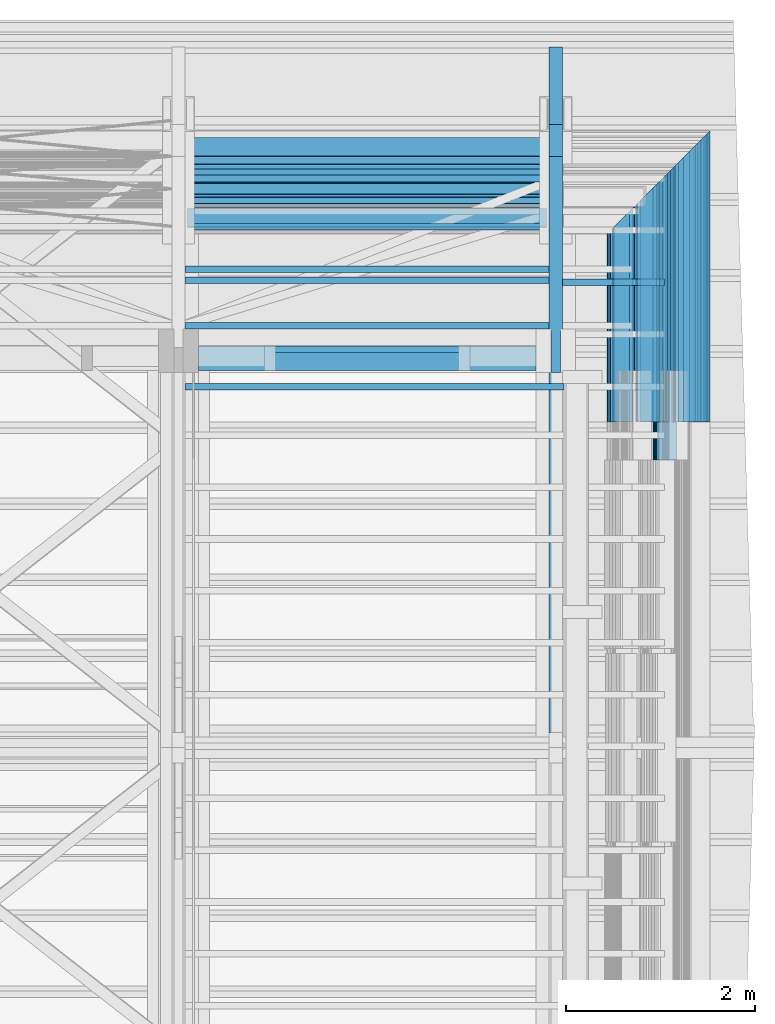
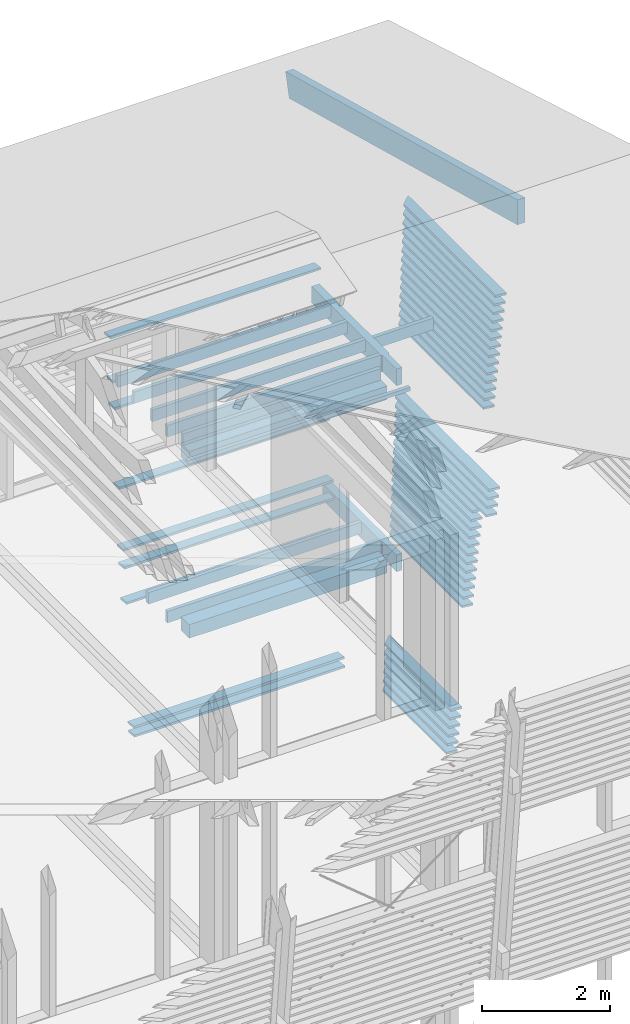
# One storey, part 27 of 48: 59 beams.
"""IFC2X3 building model written with IfcOpenShell, lengths in metres."""

from ifc_helpers import new_model, si_unit, direction, frame, origin_with_axes, place, context, subcontext, project, spatial, faceted_brep, material, element, save


model = new_model("IFC2X3")

# Units and contexts
model_context = context("Model", 3, precision=1e-06, world=origin_with_axes(), true_north=direction((0.0, 1.0, 0.0)))
body_context = subcontext(model_context, "Body", "Model", "MODEL_VIEW")
ifc_project = project(units=[si_unit("LENGTHUNIT", "METRE"), si_unit("AREAUNIT", "SQUARE_METRE"), si_unit("VOLUMEUNIT", "CUBIC_METRE"), si_unit("PLANEANGLEUNIT", "RADIAN")], contexts=[model_context])

# Site, building, storey
site_placement = place(None, origin_with_axes())
site = spatial("IfcSite", under=ifc_project, at=site_placement, CompositionType="ELEMENT")
building_placement = place(site_placement, origin_with_axes())
building = spatial("IfcBuilding", under=site, at=building_placement, Name="Building 1", CompositionType="ELEMENT")
storey_placement = place(building_placement, origin_with_axes())
storey = spatial("IfcBuildingStorey", under=building, at=storey_placement, Name="Storey 1", CompositionType="ELEMENT", Elevation=0.0)

# Beams
ifc_material_1 = material(Name="Moabi")
beam_1_placement = place(storey_placement, frame((69.3927439, -183.2718966, 4.2138798), z_axis=(0.0, -0.9945219, 0.1045285), x_axis=(-1.0, 0.0, 0.0)))
element("IfcBeam", 1, at=beam_1_placement, inside=storey, material=ifc_material_1, Name="garde corp", context=body_context, shape_type="Brep", body=[
    faceted_brep([(3.8048051, -0.02, 0.1), (3.8048051, 0.02, 0.1), (0.0, 0.02, 0.1), (0.0, -0.02, 0.1), (3.8048051, 0.02, -0.1), (0.0, 0.02, -0.1), (3.8048051, -0.02, -0.1), (0.0, -0.02, -0.1)], [[[0, 1, 2, 3]], [[1, 4, 5, 2]], [[4, 6, 7, 5]], [[6, 0, 3, 7]], [[1, 0, 6, 4]], [[7, 3, 2, 5]]]),
])
ifc_material_2 = material(Name="GL28h")
beam_2_placement = place(storey_placement, frame((69.4897437, -181.8355309, 11.197686), z_axis=(0.0, 0.258819, 0.9659258), x_axis=(0.0, -0.9659258, 0.258819)))
element("IfcBeam", 2, at=beam_2_placement, inside=storey, material=ifc_material_2, Name="Arbalétrier", context=body_context, shape_type="Brep", body=[
    faceted_brep([(7.4053414, 0.07, -0.23), (7.5285981, 0.07, 0.23), (7.5285981, -0.07, 0.23), (7.4053414, -0.07, -0.23), (0.0, 0.07, 0.23), (0.0, -0.07, 0.23), (0.0, 0.07, -0.23), (0.0, -0.07, -0.23)], [[[0, 1, 2, 3]], [[2, 1, 4, 5]], [[1, 0, 6, 4]], [[0, 3, 7, 6]], [[3, 2, 5, 7]], [[6, 7, 5, 4]]]),
])
beam_3_placement = place(storey_placement, frame((70.6058754, -183.0867311, 5.0096516), z_axis=(-0.9945219, 0.0, 0.1045285), x_axis=(0.0, -1.0, 0.0)))
element("IfcBeam", 3, at=beam_3_placement, inside=storey, material=ifc_material_1, Name="garde corp", context=body_context, shape_type="Brep", body=[
    faceted_brep([(0.0, 0.02, -0.1), (0.0041811, -0.02, -0.1), (0.2030855, -0.02, 0.1), (0.1989044, 0.02, 0.1), (2.6655478, -0.02, -0.1), (2.6655478, -0.02, 0.1), (2.6655478, 0.02, -0.1), (2.6655478, 0.02, 0.1)], [[[0, 1, 2, 3]], [[2, 1, 4, 5]], [[1, 0, 6, 4]], [[3, 2, 5, 7]], [[0, 3, 7, 6]], [[4, 6, 7, 5]]]),
])
beam_4_placement = place(storey_placement, frame((65.6997437, -185.0764881, 4.085), z_axis=(0.0, 0.0, 1.0), x_axis=(1.0, 0.0, 0.0)))
element("IfcBeam", 4, at=beam_4_placement, inside=storey, material=ifc_material_2, Name="Buton", context=body_context, shape_type="Brep", body=[
    faceted_brep([(0.0, 0.13, 0.13), (0.0, -0.13, 0.13), (3.58, -0.13, 0.13), (3.58, 0.13, 0.13), (0.0, -0.13, -0.13), (3.58, -0.13, -0.13), (0.0, 0.13, -0.13), (3.58, 0.13, -0.13)], [[[0, 1, 2, 3]], [[2, 1, 4, 5]], [[1, 0, 6, 4]], [[5, 4, 6, 7]], [[0, 3, 7, 6]], [[3, 2, 5, 7]]]),
])
beam_5_placement = place(storey_placement, frame((71.0072647, -182.6853418, 8.8286157), z_axis=(-0.9945219, 0.0, 0.1045285), x_axis=(0.0, -1.0, 0.0)))
element("IfcBeam", 5, at=beam_5_placement, inside=storey, material=ifc_material_1, Name="garde corp", context=body_context, shape_type="Brep", body=[
    faceted_brep([(0.0, 0.02, -0.1), (0.0041811, -0.02, -0.1), (0.2030855, -0.02, 0.1), (0.1989044, 0.02, 0.1), (3.0669371, -0.02, -0.1), (3.0669371, -0.02, 0.1), (3.0669371, 0.02, -0.1), (3.0669371, 0.02, 0.1)], [[[0, 1, 2, 3]], [[2, 1, 4, 5]], [[1, 0, 6, 4]], [[3, 2, 5, 7]], [[0, 3, 7, 6]], [[4, 6, 7, 5]]]),
])
beam_6_placement = place(storey_placement, frame((69.3927439, -183.1213756, 5.6459913), z_axis=(0.0, -0.9945219, 0.1045285), x_axis=(-1.0, 0.0, 0.0)))
element("IfcBeam", 6, at=beam_6_placement, inside=storey, material=ifc_material_1, Name="garde corp", context=body_context, shape_type="Brep", body=[
    faceted_brep([(3.8048053, -0.02, 0.1), (3.8048053, 0.02, 0.1), (0.0, 0.02, 0.1), (0.0, -0.02, 0.1), (3.8048051, 0.02, -0.1), (0.0, 0.02, -0.1), (3.8048053, -0.02, -0.1), (0.0, -0.02, -0.1)], [[[0, 1, 2, 3]], [[1, 4, 5, 2]], [[4, 6, 7, 5]], [[6, 0, 3, 7]], [[1, 0, 6, 4]], [[7, 3, 2, 5]]]),
])
beam_7_placement = place(storey_placement, frame((65.6997437, -185.0764881, 7.4), z_axis=(0.0, 0.0, 1.0), x_axis=(1.0, 0.0, 0.0)))
element("IfcBeam", 7, at=beam_7_placement, inside=storey, material=ifc_material_2, Name="Buton", context=body_context, shape_type="Brep", body=[
    faceted_brep([(0.0, 0.13, 0.13), (0.0, -0.13, 0.13), (3.58, -0.13, 0.13), (3.58, 0.13, 0.13), (0.0, -0.13, -0.13), (3.58, -0.13, -0.13), (0.0, 0.13, -0.13), (3.58, 0.13, -0.13)], [[[0, 1, 2, 3]], [[2, 1, 4, 5]], [[1, 0, 6, 4]], [[5, 4, 6, 7]], [[0, 3, 7, 6]], [[3, 2, 5, 7]]]),
])
beam_8_placement = place(storey_placement, frame((69.4897437, -185.2264881, 7.649), z_axis=(0.0, 0.0, 1.0), x_axis=(0.0, 1.0, 0.0)))
element("IfcBeam", 8, at=beam_8_placement, inside=storey, material=ifc_material_2, Name="Sommier Coursive", context=body_context, shape_type="Brep", body=[
    faceted_brep([(0.0, -0.05, -0.16), (0.44, -0.05, -0.16), (0.44, -0.05, 0.16), (0.0, -0.05, 0.16), (0.44, -0.07, -0.16), (0.44, -0.07, 0.16), (0.0, 0.05, 0.16), (0.0, 0.05, -0.16), (2.6285375, -0.07, 0.16), (2.6285375, 0.07, 0.16), (0.44, 0.07, 0.16), (0.44, 0.05, 0.16), (0.44, 0.05, -0.16), (0.44, 0.07, -0.16), (2.6285375, -0.07, -0.16), (2.6285375, 0.07, -0.16)], [[[0, 1, 2, 3]], [[1, 4, 5, 2]], [[0, 3, 6, 7]], [[3, 2, 5, 8, 9, 10, 11, 6]], [[6, 11, 12, 7]], [[11, 10, 13, 12]], [[5, 4, 14, 8]], [[1, 0, 7, 12, 13, 15, 14, 4]], [[13, 10, 9, 15]], [[9, 8, 14, 15]]]),
])
beam_9_placement = place(storey_placement, frame((65.6997437, -184.9814881, 7.64), z_axis=(0.0, 0.0, 1.0), x_axis=(1.0, 0.0, 0.0)))
element("IfcBeam", 9, at=beam_9_placement, inside=storey, material=ifc_material_2, Name="Rive", context=body_context, shape_type="Brep", body=[
    faceted_brep([(0.0, -0.035, -0.11), (0.0, -0.035, 0.11), (0.0, 0.035, 0.11), (0.0, 0.035, -0.11), (3.58, 0.035, -0.11), (3.58, -0.035, -0.11), (3.58, -0.035, 0.11), (3.58, 0.035, 0.11)], [[[0, 1, 2, 3]], [[0, 3, 4, 5]], [[1, 0, 5, 6]], [[5, 4, 7, 6]], [[3, 2, 7, 4]], [[2, 1, 6, 7]]]),
])
for number, where, z_axis, x_axis, name in (
    (10, (69.3927441, -183.5729386, 1.3496567), (0.0, -0.9945219, 0.1045285), (-1.0, 0.0, 0.0), "garde corp"),
    (11, (69.3927441, -183.5896631, 1.1905332), (0.0, -0.9945219, 0.1045285), (-1.0, 0.0, 0.0), "garde corp"),
):
    element("IfcBeam", number, at=place(storey_placement, frame(where, z_axis=z_axis, x_axis=x_axis)), inside=storey, material=ifc_material_1, Name=name, context=body_context, shape_type="Brep", body=[
        faceted_brep([(3.806, -0.02, 0.1), (3.806, 0.02, 0.1), (0.0, 0.02, 0.1), (0.0, -0.02, 0.1), (3.806, 0.02, -0.1), (0.0, 0.02, -0.1), (3.806, -0.02, -0.1), (0.0, -0.02, -0.1)], [[[0, 1, 2, 3]], [[1, 4, 5, 2]], [[4, 6, 7, 5]], [[6, 0, 3, 7]], [[1, 0, 6, 4]], [[7, 3, 2, 5]]]),
    ])
beam_10_placement = place(storey_placement, frame((69.4897437, -185.2264881, 4.089), z_axis=(0.0, 0.0, 1.0), x_axis=(0.0, 1.0, 0.0)))
element("IfcBeam", 12, at=beam_10_placement, inside=storey, material=ifc_material_2, Name="Sommier Coursive", context=body_context, shape_type="Brep", body=[
    faceted_brep([(0.0, 0.05, 0.16), (0.44, 0.05, 0.16), (0.44, 0.05, -0.16), (0.0, 0.05, -0.16), (0.44, 0.07, 0.16), (0.44, 0.07, -0.16), (0.0, -0.05, 0.16), (0.44, -0.05, 0.16), (0.44, -0.07, 0.16), (2.2900003, -0.07, 0.16), (2.2900003, 0.07, 0.16), (0.0, -0.05, -0.16), (0.44, -0.05, -0.16), (0.44, -0.07, -0.16), (2.2900003, 0.07, -0.16), (2.2900003, -0.07, -0.16)], [[[0, 1, 2, 3]], [[1, 4, 5, 2]], [[4, 1, 0, 6, 7, 8, 9, 10]], [[0, 3, 11, 6]], [[11, 12, 7, 6]], [[12, 13, 8, 7]], [[2, 5, 14, 15, 13, 12, 11, 3]], [[8, 13, 15, 9]], [[5, 4, 10, 14]], [[10, 9, 15, 14]]]),
])
beam_11_placement = place(storey_placement, frame((70.5557017, -183.1369048, 4.5322811), z_axis=(-0.9945219, 0.0, 0.1045285), x_axis=(0.0, -1.0, 0.0)))
element("IfcBeam", 13, at=beam_11_placement, inside=storey, material=ifc_material_1, Name="garde corp", context=body_context, shape_type="Brep", body=[
    faceted_brep([(0.0, 0.02, -0.1), (0.0041811, -0.02, -0.1), (0.2030855, -0.02, 0.1), (0.1989044, 0.02, 0.1), (2.6153742, -0.02, -0.1), (2.6153742, -0.02, 0.1), (2.6153742, 0.02, -0.1), (2.6153742, 0.02, 0.1)], [[[0, 1, 2, 3]], [[2, 1, 4, 5]], [[1, 0, 6, 4]], [[3, 2, 5, 7]], [[0, 3, 7, 6]], [[4, 6, 7, 5]]]),
])
beam_12_placement = place(storey_placement, frame((70.9738156, -182.7187909, 8.5103687), z_axis=(-0.9945219, 0.0, 0.1045285), x_axis=(0.0, -1.0, 0.0)))
element("IfcBeam", 14, at=beam_12_placement, inside=storey, material=ifc_material_1, Name="garde corp", context=body_context, shape_type="Brep", body=[
    faceted_brep([(0.0, 0.02, -0.1), (0.0041811, -0.02, -0.1), (0.2030855, -0.02, 0.1), (0.1989044, 0.02, 0.1), (3.033488, -0.02, -0.1), (3.033488, -0.02, 0.1), (3.033488, 0.02, -0.1), (3.033488, 0.02, 0.1)], [[[0, 1, 2, 3]], [[2, 1, 4, 5]], [[1, 0, 6, 4]], [[3, 2, 5, 7]], [[0, 3, 7, 6]], [[4, 6, 7, 5]]]),
])
beam_13_placement = place(storey_placement, frame((70.9403665, -182.7575802, 8.1921217), z_axis=(-0.9945219, 0.0, 0.1045285), x_axis=(0.0, -1.0, 0.0)))
element("IfcBeam", 15, at=beam_13_placement, inside=storey, material=ifc_material_1, Name="garde corp", context=body_context, shape_type="Brep", body=[
    faceted_brep([(0.0, -0.02, -0.0988346), (0.1977453, -0.02, 0.1), (0.1935642, 0.02, 0.1), (0.0, 0.02, -0.0946304), (2.9946987, -0.02, 0.1), (2.9946987, 0.02, 0.1), (0.0, -0.02, -0.1), (2.9946987, -0.02, -0.1), (2.9946987, 0.02, -0.1), (0.0, 0.02, -0.1)], [[[0, 1, 2, 3]], [[2, 1, 4, 5]], [[1, 0, 6, 7, 4]], [[8, 7, 6, 9]], [[3, 2, 5, 8, 9]], [[7, 8, 5, 4]], [[0, 3, 9, 6]]]),
])
beam_14_placement = place(storey_placement, frame((70.472079, -183.2214821, 3.7366636), z_axis=(-0.9945219, 0.0, 0.1045285), x_axis=(0.0, -1.0, 0.0)))
element("IfcBeam", 16, at=beam_14_placement, inside=storey, material=ifc_material_1, Name="garde corp", context=body_context, shape_type="Brep", body=[
    faceted_brep([(0.0, 0.0108679, -0.1), (0.0032266, -0.02, -0.1), (0.2021309, -0.02, 0.1), (0.1979498, 0.02, 0.1), (0.0, 0.02, -0.0990402), (2.5307968, -0.02, 0.1), (2.5307968, 0.02, 0.1), (2.5307968, -0.02, -0.1), (0.0, 0.02, -0.1), (2.5307968, 0.02, -0.1)], [[[0, 1, 2, 3, 4]], [[3, 2, 5, 6]], [[2, 1, 7, 5]], [[1, 0, 8, 9, 7]], [[4, 3, 6, 9, 8]], [[7, 9, 6, 5]], [[0, 4, 8]]]),
])
beam_15_placement = place(storey_placement, frame((70.1877615, -183.5049766, 1.031564), z_axis=(-0.9945219, 0.0, 0.1045285), x_axis=(0.0, -1.0, 0.0)))
element("IfcBeam", 17, at=beam_15_placement, inside=storey, material=ifc_material_1, Name="garde corp", context=body_context, shape_type="Brep", body=[
    faceted_brep([(0.0, 0.018741, -0.1), (0.0040495, -0.02, -0.1), (0.2029539, -0.02, 0.1), (0.1987728, 0.02, 0.1), (0.0, 0.02, -0.0998677), (2.2473024, -0.02, 0.1), (2.2473024, 0.02, 0.1), (2.2473024, -0.02, -0.1), (0.0, 0.02, -0.1), (2.2473024, 0.02, -0.1)], [[[0, 1, 2, 3, 4]], [[3, 2, 5, 6]], [[2, 1, 7, 5]], [[1, 0, 8, 9, 7]], [[4, 3, 6, 9, 8]], [[7, 9, 6, 5]], [[0, 4, 8]]]),
])
beam_16_placement = place(storey_placement, frame((70.4553544, -183.2372521, 3.5775401), z_axis=(-0.9945219, 0.0, 0.1045285), x_axis=(0.0, -1.0, 0.0)))
element("IfcBeam", 18, at=beam_16_placement, inside=storey, material=ifc_material_1, Name="garde corp", context=body_context, shape_type="Brep", body=[
    faceted_brep([(0.0, 0.02, -0.1), (0.0041811, -0.02, -0.1), (0.2030855, -0.02, 0.1), (0.1989044, 0.02, 0.1), (2.5150269, -0.02, -0.1), (2.5150269, -0.02, 0.1), (2.5150269, 0.02, -0.1), (2.5150269, 0.02, 0.1)], [[[0, 1, 2, 3]], [[2, 1, 4, 5]], [[1, 0, 6, 4]], [[3, 2, 5, 7]], [[0, 3, 7, 6]], [[4, 6, 7, 5]]]),
])
beam_17_placement = place(storey_placement, frame((70.4888035, -183.203803, 3.8957871), z_axis=(-0.9945219, 0.0, 0.1045285), x_axis=(0.0, -1.0, 0.0)))
element("IfcBeam", 19, at=beam_17_placement, inside=storey, material=ifc_material_1, Name="garde corp", context=body_context, shape_type="Brep", body=[
    faceted_brep([(0.0, 0.02, -0.1), (0.0041811, -0.02, -0.1), (0.2030855, -0.02, 0.1), (0.1989044, 0.02, 0.1), (2.548476, -0.02, -0.1), (2.548476, -0.02, 0.1), (2.548476, 0.02, -0.1), (2.548476, 0.02, 0.1)], [[[0, 1, 2, 3]], [[2, 1, 4, 5]], [[1, 0, 6, 4]], [[3, 2, 5, 7]], [[0, 3, 7, 6]], [[4, 6, 7, 5]]]),
])
beam_18_placement = place(storey_placement, frame((70.171037, -183.5215857, 0.8724405), z_axis=(-0.9945219, 0.0, 0.1045285), x_axis=(0.0, -1.0, 0.0)))
element("IfcBeam", 20, at=beam_18_placement, inside=storey, material=ifc_material_1, Name="garde corp", context=body_context, shape_type="Brep", body=[
    faceted_brep([(0.0, 0.0198904, -0.1), (0.0041811, -0.02, -0.1), (0.2030855, -0.02, 0.1), (0.1988929, 0.02, 0.1), (0.0, 0.02, -0.1), (2.2306933, -0.02, 0.1), (2.2306933, 0.02, 0.1), (2.2306933, -0.02, -0.1), (2.2306933, 0.02, -0.1)], [[[0, 1, 2, 3, 4]], [[3, 2, 5, 6]], [[2, 1, 7, 5]], [[1, 0, 4, 8, 7]], [[4, 3, 6, 8, 4]], [[7, 8, 6, 5]]]),
])
beam_19_placement = place(storey_placement, frame((70.4219053, -183.271314, 3.2592931), z_axis=(-0.9945219, 0.0, 0.1045285), x_axis=(0.0, -1.0, 0.0)))
element("IfcBeam", 21, at=beam_19_placement, inside=storey, material=ifc_material_1, Name="garde corp", context=body_context, shape_type="Brep", body=[
    faceted_brep([(0.0, 0.0141377, -0.1), (0.0035684, -0.02, -0.1), (0.2024727, -0.02, 0.1), (0.1982916, 0.02, 0.1), (0.0, 0.02, -0.0993838), (2.480965, -0.02, 0.1), (2.480965, 0.02, 0.1), (2.480965, -0.02, -0.1), (0.0, 0.02, -0.1), (2.480965, 0.02, -0.1)], [[[0, 1, 2, 3, 4]], [[3, 2, 5, 6]], [[2, 1, 7, 5]], [[1, 0, 8, 9, 7]], [[4, 3, 6, 9, 8]], [[7, 9, 6, 5]], [[0, 4, 8]]]),
])
beam_20_placement = place(storey_placement, frame((70.5055281, -183.1870784, 4.0549106), z_axis=(-0.9945219, 0.0, 0.1045285), x_axis=(0.0, -1.0, 0.0)))
element("IfcBeam", 22, at=beam_20_placement, inside=storey, material=ifc_material_1, Name="garde corp", context=body_context, shape_type="Brep", body=[
    faceted_brep([(0.0, 0.02, -0.1), (0.0041811, -0.02, -0.1), (0.2030855, -0.02, 0.1), (0.1989044, 0.02, 0.1), (2.5652005, -0.02, -0.1), (2.5652005, -0.02, 0.1), (2.5652005, 0.02, -0.1), (2.5652005, 0.02, 0.1)], [[[0, 1, 2, 3]], [[2, 1, 4, 5]], [[1, 0, 6, 4]], [[3, 2, 5, 7]], [[0, 3, 7, 6]], [[4, 6, 7, 5]]]),
])
beam_21_placement = place(storey_placement, frame((70.1375879, -183.5553004, 0.5541935), z_axis=(-0.9945219, 0.0, 0.1045285), x_axis=(0.0, -1.0, 0.0)))
element("IfcBeam", 23, at=beam_21_placement, inside=storey, material=ifc_material_1, Name="garde corp", context=body_context, shape_type="Brep", body=[
    faceted_brep([(0.0, 0.0173037, -0.1), (0.0038993, -0.02, -0.1), (0.2028037, -0.02, 0.1), (0.1986225, 0.02, 0.1), (0.0, 0.02, -0.0997166), (2.1969785, -0.02, 0.1), (2.1969785, 0.02, 0.1), (2.1969785, -0.02, -0.1), (0.0, 0.02, -0.1), (2.1969785, 0.02, -0.1)], [[[0, 1, 2, 3, 4]], [[3, 2, 5, 6]], [[2, 1, 7, 5]], [[1, 0, 8, 9, 7]], [[4, 3, 6, 9, 8]], [[7, 9, 6, 5]], [[0, 4, 8]]]),
])
beam_22_placement = place(storey_placement, frame((70.1543124, -183.5382941, 0.713317), z_axis=(-0.9945219, 0.0, 0.1045285), x_axis=(0.0, -1.0, 0.0)))
element("IfcBeam", 24, at=beam_22_placement, inside=storey, material=ifc_material_1, Name="garde corp", context=body_context, shape_type="Brep", body=[
    faceted_brep([(0.0, 0.02, -0.1), (0.0041811, -0.02, -0.1), (0.2030855, -0.02, 0.1), (0.1989044, 0.02, 0.1), (2.2139849, -0.02, -0.1), (2.2139849, -0.02, 0.1), (2.2139849, 0.02, -0.1), (2.2139849, 0.02, 0.1)], [[[0, 1, 2, 3]], [[2, 1, 4, 5]], [[1, 0, 6, 4]], [[3, 2, 5, 7]], [[0, 3, 7, 6]], [[4, 6, 7, 5]]]),
])
beam_23_placement = place(storey_placement, frame((70.2212107, -183.4713958, 1.349811), z_axis=(-0.9945219, 0.0, 0.1045285), x_axis=(0.0, -1.0, 0.0)))
element("IfcBeam", 25, at=beam_23_placement, inside=storey, material=ifc_material_1, Name="garde corp", context=body_context, shape_type="Brep", body=[
    faceted_brep([(0.0, 0.02, -0.1), (0.0041811, -0.02, -0.1), (0.2030855, -0.02, 0.1), (0.1989044, 0.02, 0.1), (2.2808831, -0.02, -0.1), (2.2808831, -0.02, 0.1), (2.2808831, 0.02, -0.1), (2.2808831, 0.02, 0.1)], [[[0, 1, 2, 3]], [[2, 1, 4, 5]], [[1, 0, 6, 4]], [[3, 2, 5, 7]], [[0, 3, 7, 6]], [[4, 6, 7, 5]]]),
])
beam_24_placement = place(storey_placement, frame((70.4386299, -183.254808, 3.4184166), z_axis=(-0.9945219, 0.0, 0.1045285), x_axis=(0.0, -1.0, 0.0)))
element("IfcBeam", 26, at=beam_24_placement, inside=storey, material=ifc_material_1, Name="garde corp", context=body_context, shape_type="Brep", body=[
    faceted_brep([(0.0, 0.0120465, -0.1), (0.0033498, -0.02, -0.1), (0.2022542, -0.02, 0.1), (0.198073, 0.02, 0.1), (0.0, 0.02, -0.0991641), (2.4974709, -0.02, 0.1), (2.4974709, 0.02, 0.1), (2.4974709, -0.02, -0.1), (0.0, 0.02, -0.1), (2.4974709, 0.02, -0.1)], [[[0, 1, 2, 3, 4]], [[3, 2, 5, 6]], [[2, 1, 7, 5]], [[1, 0, 8, 9, 7]], [[4, 3, 6, 9, 8]], [[7, 9, 6, 5]], [[0, 4, 8]]]),
])
beam_25_placement = place(storey_placement, frame((70.5222526, -183.1703539, 4.2140341), z_axis=(-0.9945219, 0.0, 0.1045285), x_axis=(0.0, -1.0, 0.0)))
element("IfcBeam", 27, at=beam_25_placement, inside=storey, material=ifc_material_1, Name="garde corp", context=body_context, shape_type="Brep", body=[
    faceted_brep([(0.0, 0.02, -0.1), (0.0041811, -0.02, -0.1), (0.2030855, -0.02, 0.1), (0.1989044, 0.02, 0.1), (2.5819251, -0.02, -0.1), (2.5819251, -0.02, 0.1), (2.5819251, 0.02, -0.1), (2.5819251, 0.02, 0.1)], [[[0, 1, 2, 3]], [[2, 1, 4, 5]], [[1, 0, 6, 4]], [[3, 2, 5, 7]], [[0, 3, 7, 6]], [[4, 6, 7, 5]]]),
])
beam_26_placement = place(storey_placement, frame((70.5724263, -183.1219081, 4.6914046), z_axis=(-0.9945219, 0.0, 0.1045285), x_axis=(0.0, -1.0, 0.0)))
element("IfcBeam", 28, at=beam_26_placement, inside=storey, material=ifc_material_1, Name="garde corp", context=body_context, shape_type="Brep", body=[
    faceted_brep([(0.0, 0.00347, -0.1), (0.0024533, -0.02, -0.1), (0.2013577, -0.02, 0.1), (0.1971765, 0.02, 0.1), (0.0, 0.02, -0.0982626), (2.6303709, -0.02, 0.1), (2.6303709, 0.02, 0.1), (2.6303709, -0.02, -0.1), (0.0, 0.02, -0.1), (2.6303709, 0.02, -0.1)], [[[0, 1, 2, 3, 4]], [[3, 2, 5, 6]], [[2, 1, 7, 5]], [[1, 0, 8, 9, 7]], [[4, 3, 6, 9, 8]], [[7, 9, 6, 5]], [[0, 4, 8]]]),
])
beam_27_placement = place(storey_placement, frame((70.5389772, -183.1542023, 4.3731576), z_axis=(-0.9945219, 0.0, 0.1045285), x_axis=(0.0, -1.0, 0.0)))
element("IfcBeam", 29, at=beam_27_placement, inside=storey, material=ifc_material_1, Name="garde corp", context=body_context, shape_type="Brep", body=[
    faceted_brep([(0.0, 0.0145179, -0.1), (0.0036081, -0.02, -0.1), (0.2025125, -0.02, 0.1), (0.1983313, 0.02, 0.1), (0.0, 0.02, -0.0994238), (2.5980766, -0.02, 0.1), (2.5980766, 0.02, 0.1), (2.5980766, -0.02, -0.1), (0.0, 0.02, -0.1), (2.5980766, 0.02, -0.1)], [[[0, 1, 2, 3, 4]], [[3, 2, 5, 6]], [[2, 1, 7, 5]], [[1, 0, 8, 9, 7]], [[4, 3, 6, 9, 8]], [[7, 9, 6, 5]], [[0, 4, 8]]]),
])
beam_28_placement = place(storey_placement, frame((70.2044861, -183.4883674, 1.1906875), z_axis=(-0.9945219, 0.0, 0.1045285), x_axis=(0.0, -1.0, 0.0)))
element("IfcBeam", 30, at=beam_28_placement, inside=storey, material=ifc_material_1, Name="garde corp", context=body_context, shape_type="Brep", body=[
    faceted_brep([(0.0, 0.0176367, -0.1), (0.0039341, -0.02, -0.1), (0.2028037, -0.02, 0.1), (0.1986225, 0.02, 0.1), (0.0, 0.02, -0.0997166), (2.2639115, -0.02, 0.1), (2.2639115, 0.02, 0.1), (2.2639115, -0.02, -0.1), (0.0, 0.02, -0.1), (2.2639115, 0.02, -0.1)], [[[0, 1, 2, 3, 4]], [[3, 2, 5, 6]], [[2, 1, 7, 5]], [[1, 0, 8, 9, 7]], [[4, 3, 6, 9, 8]], [[7, 9, 6, 5]], [[0, 4, 8]]]),
])
beam_29_placement = place(storey_placement, frame((70.6393245, -183.053282, 5.3278986), z_axis=(-0.9945219, 0.0, 0.1045285), x_axis=(0.0, -1.0, 0.0)))
element("IfcBeam", 31, at=beam_29_placement, inside=storey, material=ifc_material_1, Name="garde corp", context=body_context, shape_type="Brep", body=[
    faceted_brep([(0.0, 0.02, -0.1), (0.0041811, -0.02, -0.1), (0.2030855, -0.02, 0.1), (0.1989044, 0.02, 0.1), (3.1047878, -0.02, -0.1), (3.1047878, -0.02, 0.1), (3.1047878, 0.02, -0.1), (3.1047878, 0.02, 0.1)], [[[0, 1, 2, 3]], [[2, 1, 4, 5]], [[1, 0, 6, 4]], [[3, 2, 5, 7]], [[0, 3, 7, 6]], [[4, 6, 7, 5]]]),
])
beam_30_placement = place(storey_placement, frame((70.9236419, -182.7689646, 8.0329982), z_axis=(-0.9945219, 0.0, 0.1045285), x_axis=(0.0, -1.0, 0.0)))
element("IfcBeam", 32, at=beam_30_placement, inside=storey, material=ifc_material_1, Name="garde corp", context=body_context, shape_type="Brep", body=[
    faceted_brep([(0.0, 0.02, -0.1), (0.0041811, -0.02, -0.1), (0.2030855, -0.02, 0.1), (0.1989044, 0.02, 0.1), (2.9833144, -0.02, -0.1), (2.9833144, -0.02, 0.1), (2.9833144, 0.02, -0.1), (2.9833144, 0.02, 0.1)], [[[0, 1, 2, 3]], [[2, 1, 4, 5]], [[1, 0, 6, 4]], [[3, 2, 5, 7]], [[0, 3, 7, 6]], [[4, 6, 7, 5]]]),
])
beam_31_placement = place(storey_placement, frame((70.8567437, -182.8358628, 7.3965042), z_axis=(-0.9945219, 0.0, 0.1045285), x_axis=(0.0, -1.0, 0.0)))
element("IfcBeam", 33, at=beam_31_placement, inside=storey, material=ifc_material_1, Name="garde corp", context=body_context, shape_type="Brep", body=[
    faceted_brep([(0.0, 0.02, -0.1), (0.0041811, -0.02, -0.1), (0.2030855, -0.02, 0.1), (0.1989044, 0.02, 0.1), (2.9164162, -0.02, -0.1), (2.9164162, -0.02, 0.1), (2.9164162, 0.02, -0.1), (2.9164162, 0.02, 0.1)], [[[0, 1, 2, 3]], [[2, 1, 4, 5]], [[1, 0, 6, 4]], [[3, 2, 5, 7]], [[0, 3, 7, 6]], [[4, 6, 7, 5]]]),
])
beam_32_placement = place(storey_placement, frame((70.957091, -182.7355155, 8.3512452), z_axis=(-0.9945219, 0.0, 0.1045285), x_axis=(0.0, -1.0, 0.0)))
element("IfcBeam", 34, at=beam_32_placement, inside=storey, material=ifc_material_1, Name="garde corp", context=body_context, shape_type="Brep", body=[
    faceted_brep([(0.0, 0.02, -0.1), (0.0041811, -0.02, -0.1), (0.2030855, -0.02, 0.1), (0.1989044, 0.02, 0.1), (3.0167635, -0.02, -0.1), (3.0167635, -0.02, 0.1), (3.0167635, 0.02, -0.1), (3.0167635, 0.02, 0.1)], [[[0, 1, 2, 3]], [[2, 1, 4, 5]], [[1, 0, 6, 4]], [[3, 2, 5, 7]], [[0, 3, 7, 6]], [[4, 6, 7, 5]]]),
])
beam_33_placement = place(storey_placement, frame((70.8901928, -182.8024137, 7.7147512), z_axis=(-0.9945219, 0.0, 0.1045285), x_axis=(0.0, -1.0, 0.0)))
element("IfcBeam", 35, at=beam_33_placement, inside=storey, material=ifc_material_1, Name="garde corp", context=body_context, shape_type="Brep", body=[
    faceted_brep([(0.0, 0.02, -0.1), (0.0041811, -0.02, -0.1), (0.2030855, -0.02, 0.1), (0.1989044, 0.02, 0.1), (2.9498653, -0.02, -0.1), (2.9498653, -0.02, 0.1), (2.9498653, 0.02, -0.1), (2.9498653, 0.02, 0.1)], [[[0, 1, 2, 3]], [[2, 1, 4, 5]], [[1, 0, 6, 4]], [[3, 2, 5, 7]], [[0, 3, 7, 6]], [[4, 6, 7, 5]]]),
])
beam_34_placement = place(storey_placement, frame((70.8400192, -182.8525873, 7.2373807), z_axis=(-0.9945219, 0.0, 0.1045285), x_axis=(0.0, -1.0, 0.0)))
element("IfcBeam", 36, at=beam_34_placement, inside=storey, material=ifc_material_1, Name="garde corp", context=body_context, shape_type="Brep", body=[
    faceted_brep([(0.0, 0.02, -0.1), (0.0041811, -0.02, -0.1), (0.2030855, -0.02, 0.1), (0.1989044, 0.02, 0.1), (2.8996916, -0.02, -0.1), (2.8996916, -0.02, 0.1), (2.8996916, 0.02, -0.1), (2.8996916, 0.02, 0.1)], [[[0, 1, 2, 3]], [[2, 1, 4, 5]], [[1, 0, 6, 4]], [[3, 2, 5, 7]], [[0, 3, 7, 6]], [[4, 6, 7, 5]]]),
])
beam_35_placement = place(storey_placement, frame((70.9905401, -182.7020663, 8.6694922), z_axis=(-0.9945219, 0.0, 0.1045285), x_axis=(0.0, -1.0, 0.0)))
element("IfcBeam", 37, at=beam_35_placement, inside=storey, material=ifc_material_1, Name="garde corp", context=body_context, shape_type="Brep", body=[
    faceted_brep([(0.0, 0.02, -0.1), (0.0041811, -0.02, -0.1), (0.2030855, -0.02, 0.1), (0.1989044, 0.02, 0.1), (3.0502126, -0.02, -0.1), (3.0502126, -0.02, 0.1), (3.0502126, 0.02, -0.1), (3.0502126, 0.02, 0.1)], [[[0, 1, 2, 3]], [[2, 1, 4, 5]], [[1, 0, 6, 4]], [[3, 2, 5, 7]], [[0, 3, 7, 6]], [[4, 6, 7, 5]]]),
])
beam_36_placement = place(storey_placement, frame((70.6225999, -183.0700065, 5.1687751), z_axis=(-0.9945219, 0.0, 0.1045285), x_axis=(0.0, -1.0, 0.0)))
element("IfcBeam", 38, at=beam_36_placement, inside=storey, material=ifc_material_1, Name="garde corp", context=body_context, shape_type="Brep", body=[
    faceted_brep([(0.0, 0.02, -0.1), (0.0041811, -0.02, -0.1), (0.2030855, -0.02, 0.1), (0.1989044, 0.02, 0.1), (3.0880632, -0.02, -0.1), (3.0880632, -0.02, 0.1), (3.0880632, 0.02, -0.1), (3.0880632, 0.02, 0.1)], [[[0, 1, 2, 3]], [[2, 1, 4, 5]], [[1, 0, 6, 4]], [[3, 2, 5, 7]], [[0, 3, 7, 6]], [[4, 6, 7, 5]]]),
])
beam_37_placement = place(storey_placement, frame((70.9069174, -182.7856891, 7.8738747), z_axis=(-0.9945219, 0.0, 0.1045285), x_axis=(0.0, -1.0, 0.0)))
element("IfcBeam", 39, at=beam_37_placement, inside=storey, material=ifc_material_1, Name="garde corp", context=body_context, shape_type="Brep", body=[
    faceted_brep([(0.0, 0.02, -0.1), (0.0041811, -0.02, -0.1), (0.2030855, -0.02, 0.1), (0.1989044, 0.02, 0.1), (2.9665898, -0.02, -0.1), (2.9665898, -0.02, 0.1), (2.9665898, 0.02, -0.1), (2.9665898, 0.02, 0.1)], [[[0, 1, 2, 3]], [[2, 1, 4, 5]], [[1, 0, 6, 4]], [[3, 2, 5, 7]], [[0, 3, 7, 6]], [[4, 6, 7, 5]]]),
])
beam_38_placement = place(storey_placement, frame((71.0239892, -182.6686172, 8.9877392), z_axis=(-0.9945219, 0.0, 0.1045285), x_axis=(0.0, -1.0, 0.0)))
element("IfcBeam", 40, at=beam_38_placement, inside=storey, material=ifc_material_1, Name="garde corp", context=body_context, shape_type="Brep", body=[
    faceted_brep([(0.2030855, -0.02, 0.1), (0.1989044, 0.02, 0.1), (0.0, 0.02, -0.1), (0.0041811, -0.02, -0.1), (3.0836617, 0.02, 0.1), (3.0836617, 0.02, -0.1), (3.0836617, -0.02, 0.1), (3.0836617, -0.02, -0.1)], [[[0, 1, 2, 3]], [[2, 1, 4, 5]], [[1, 0, 6, 4]], [[0, 3, 7, 6]], [[3, 2, 5, 7]], [[7, 5, 4, 6]]]),
])
beam_39_placement = place(storey_placement, frame((70.6560491, -183.0365574, 5.4870221), z_axis=(-0.9945219, 0.0, 0.1045285), x_axis=(0.0, -1.0, 0.0)))
element("IfcBeam", 41, at=beam_39_placement, inside=storey, material=ifc_material_1, Name="garde corp", context=body_context, shape_type="Brep", body=[
    faceted_brep([(0.0, 0.02, -0.1), (0.0041811, -0.02, -0.1), (0.2030855, -0.02, 0.1), (0.1989044, 0.02, 0.1), (3.1215124, -0.02, -0.1), (3.1215124, -0.02, 0.1), (3.1215124, 0.02, -0.1), (3.1215124, 0.02, 0.1)], [[[0, 1, 2, 3]], [[2, 1, 4, 5]], [[1, 0, 6, 4]], [[3, 2, 5, 7]], [[0, 3, 7, 6]], [[4, 6, 7, 5]]]),
])
beam_40_placement = place(storey_placement, frame((70.80657, -182.8860364, 6.9191336), z_axis=(-0.9945219, 0.0, 0.1045285), x_axis=(0.0, -1.0, 0.0)))
element("IfcBeam", 42, at=beam_40_placement, inside=storey, material=ifc_material_1, Name="garde corp", context=body_context, shape_type="Brep", body=[
    faceted_brep([(0.0, 0.02, -0.1), (0.0041811, -0.02, -0.1), (0.2030855, -0.02, 0.1), (0.1989044, 0.02, 0.1), (2.8662425, -0.02, -0.1), (2.8662425, -0.02, 0.1), (2.8662425, 0.02, -0.1), (2.8662425, 0.02, 0.1)], [[[0, 1, 2, 3]], [[2, 1, 4, 5]], [[1, 0, 6, 4]], [[3, 2, 5, 7]], [[0, 3, 7, 6]], [[4, 6, 7, 5]]]),
])
beam_41_placement = place(storey_placement, frame((70.8232946, -182.8693119, 7.0782572), z_axis=(-0.9945219, 0.0, 0.1045285), x_axis=(0.0, -1.0, 0.0)))
element("IfcBeam", 43, at=beam_41_placement, inside=storey, material=ifc_material_1, Name="garde corp", context=body_context, shape_type="Brep", body=[
    faceted_brep([(0.0, 0.02, -0.1), (0.0041811, -0.02, -0.1), (0.2030855, -0.02, 0.1), (0.1989044, 0.02, 0.1), (2.8829671, -0.02, -0.1), (2.8829671, -0.02, 0.1), (2.8829671, 0.02, -0.1), (2.8829671, 0.02, 0.1)], [[[0, 1, 2, 3]], [[2, 1, 4, 5]], [[1, 0, 6, 4]], [[3, 2, 5, 7]], [[0, 3, 7, 6]], [[4, 6, 7, 5]]]),
])
beam_42_placement = place(storey_placement, frame((70.5891508, -183.1034556, 4.8505281), z_axis=(-0.9945219, 0.0, 0.1045285), x_axis=(0.0, -1.0, 0.0)))
element("IfcBeam", 44, at=beam_42_placement, inside=storey, material=ifc_material_1, Name="garde corp", context=body_context, shape_type="Brep", body=[
    faceted_brep([(0.0, 0.02, -0.1), (0.0041811, -0.02, -0.1), (0.2030855, -0.02, 0.1), (0.1989044, 0.02, 0.1), (2.6488233, -0.02, -0.1), (2.6488233, -0.02, 0.1), (2.6488233, 0.02, -0.1), (2.6488233, 0.02, 0.1)], [[[0, 1, 2, 3]], [[2, 1, 4, 5]], [[1, 0, 6, 4]], [[3, 2, 5, 7]], [[0, 3, 7, 6]], [[4, 6, 7, 5]]]),
])
beam_43_placement = place(storey_placement, frame((70.6727736, -183.0198329, 5.6461456), z_axis=(-0.9945219, 0.0, 0.1045285), x_axis=(0.0, -1.0, 0.0)))
element("IfcBeam", 45, at=beam_43_placement, inside=storey, material=ifc_material_1, Name="garde corp", context=body_context, shape_type="Brep", body=[
    faceted_brep([(0.0, 0.02, -0.1), (0.0041811, -0.02, -0.1), (0.2030855, -0.02, 0.1), (0.1989044, 0.02, 0.1), (3.1382369, -0.02, -0.1), (3.1382369, -0.02, 0.1), (3.1382369, 0.02, -0.1), (3.1382369, 0.02, 0.1)], [[[0, 1, 2, 3]], [[2, 1, 4, 5]], [[1, 0, 6, 4]], [[3, 2, 5, 7]], [[0, 3, 7, 6]], [[4, 6, 7, 5]]]),
])
beam_44_placement = place(storey_placement, frame((70.8734683, -182.8191382, 7.5556277), z_axis=(-0.9945219, 0.0, 0.1045285), x_axis=(0.0, -1.0, 0.0)))
element("IfcBeam", 46, at=beam_44_placement, inside=storey, material=ifc_material_1, Name="garde corp", context=body_context, shape_type="Brep", body=[
    faceted_brep([(0.0, 0.02, -0.1), (0.0041811, -0.02, -0.1), (0.2030855, -0.02, 0.1), (0.1989044, 0.02, 0.1), (2.9331407, -0.02, -0.1), (2.9331407, -0.02, 0.1), (2.9331407, 0.02, -0.1), (2.9331407, 0.02, 0.1)], [[[0, 1, 2, 3]], [[2, 1, 4, 5]], [[1, 0, 6, 4]], [[3, 2, 5, 7]], [[0, 3, 7, 6]], [[4, 6, 7, 5]]]),
])
beam_45_placement = place(storey_placement, frame((65.5597437, -185.3814881, 7.494), z_axis=(0.0, 0.0, 1.0), x_axis=(1.0, 0.0, 0.0)))
element("IfcBeam", 47, at=beam_45_placement, inside=storey, material=ifc_material_2, Name="Poutre - Bois de construction", context=body_context, shape_type="Brep", body=[
    faceted_brep([(4.02, -0.035, 0.035), (4.02, -0.035, -0.035), (4.02, 0.035, -0.035), (4.02, 0.035, 0.035), (0.0, -0.035, -0.035), (0.0, 0.035, -0.035), (0.0, -0.035, 0.035), (0.0, 0.035, 0.035)], [[[0, 1, 2, 3]], [[2, 1, 4, 5]], [[1, 0, 6, 4]], [[0, 3, 7, 6]], [[3, 2, 5, 7]], [[5, 4, 6, 7]]]),
])
beam_46_placement = place(storey_placement, frame((69.3927439, -183.3387948, 3.5773858), z_axis=(0.0, -0.9945219, 0.1045285), x_axis=(-1.0, 0.0, 0.0)))
element("IfcBeam", 48, at=beam_46_placement, inside=storey, material=ifc_material_1, Name="garde corp", context=body_context, shape_type="Brep", body=[
    faceted_brep([(3.8047077, -0.02, 0.1), (3.8047077, 0.02, 0.1), (0.0, 0.02, 0.1), (0.0, -0.02, 0.1), (3.8047077, 0.02, -0.1), (0.0, 0.02, -0.1), (3.8047077, -0.02, -0.1), (0.0, -0.02, -0.1)], [[[0, 1, 2, 3]], [[1, 4, 5, 2]], [[4, 6, 7, 5]], [[6, 0, 3, 7]], [[1, 0, 6, 4]], [[7, 3, 2, 5]]]),
])
beam_47_placement = place(storey_placement, frame((69.3927441, -182.8370582, 8.3510909), z_axis=(0.0, -0.9945219, 0.1045285), x_axis=(-1.0, 0.0, 0.0)))
element("IfcBeam", 49, at=beam_47_placement, inside=storey, material=ifc_material_1, Name="garde corp", context=body_context, shape_type="Brep", body=[
    faceted_brep([(3.806, -0.02, 0.1), (3.806, 0.02, 0.1), (0.0, 0.02, 0.1), (0.0, -0.02, 0.1), (3.806, 0.02, -0.1), (0.0, 0.02, -0.1), (3.806, -0.02, -0.1), (0.0, -0.02, -0.1)], [[[0, 1, 2, 3]], [[1, 4, 5, 2]], [[4, 6, 7, 5]], [[6, 0, 3, 7]], [[1, 0, 6, 4]], [[7, 3, 2, 5]]]),
])
beam_48_placement = place(storey_placement, frame((69.3927439, -183.2384475, 4.5321268), z_axis=(0.0, -0.9945219, 0.1045285), x_axis=(-1.0, 0.0, 0.0)))
element("IfcBeam", 50, at=beam_48_placement, inside=storey, material=ifc_material_1, Name="garde corp", context=body_context, shape_type="Brep", body=[
    faceted_brep([(3.8047077, -0.02, 0.1), (3.8047077, 0.02, 0.1), (0.0, 0.02, 0.1), (0.0, -0.02, 0.1), (3.8047077, 0.02, -0.1), (0.0, 0.02, -0.1), (3.8047077, -0.02, -0.1), (0.0, -0.02, -0.1)], [[[0, 1, 2, 3]], [[1, 4, 5, 2]], [[4, 6, 7, 5]], [[6, 0, 3, 7]], [[1, 0, 6, 4]], [[7, 3, 2, 5]]]),
])
for number, where, z_axis, x_axis, name in (
    (51, (69.3927441, -182.9708546, 7.0781028), (0.0, -0.9945219, 0.1045285), (-1.0, 0.0, 0.0), "garde corp"),
    (52, (69.3927441, -182.920681, 7.5554733), (0.0, -0.9945219, 0.1045285), (-1.0, 0.0, 0.0), "garde corp"),
):
    element("IfcBeam", number, at=place(storey_placement, frame(where, z_axis=z_axis, x_axis=x_axis)), inside=storey, material=ifc_material_1, Name=name, context=body_context, shape_type="Brep", body=[
        faceted_brep([(3.806, -0.02, 0.1), (3.806, 0.02, 0.1), (0.0, 0.02, 0.1), (0.0, -0.02, 0.1), (3.806, 0.02, -0.1), (0.0, 0.02, -0.1), (3.806, -0.02, -0.1), (0.0, -0.02, -0.1)], [[[0, 1, 2, 3]], [[1, 4, 5, 2]], [[4, 6, 7, 5]], [[6, 0, 3, 7]], [[1, 0, 6, 4]], [[7, 3, 2, 5]]]),
    ])
beam_49_placement = place(storey_placement, frame((65.5597437, -184.2514881, 7.699), z_axis=(0.0, 0.0, 1.0), x_axis=(1.0, 0.0, 0.0)))
element("IfcBeam", 53, at=beam_49_placement, inside=storey, material=ifc_material_2, Name="Solive", context=body_context, shape_type="Brep", body=[
    faceted_brep([(3.86, 0.035, 0.11), (3.86, 0.035, -0.11), (0.0, 0.035, -0.11), (0.0, 0.035, 0.11), (3.86, -0.035, -0.11), (0.0, -0.035, -0.11), (3.86, -0.035, 0.11), (0.0, -0.035, 0.11)], [[[0, 1, 2, 3]], [[1, 4, 5, 2]], [[4, 6, 7, 5]], [[6, 0, 3, 7]], [[1, 0, 6, 4]], [[7, 3, 2, 5]]]),
])
beam_50_placement = place(storey_placement, frame((65.5597433, -183.6814881, 7.699), z_axis=(0.0, 0.0, 1.0), x_axis=(1.0, 0.0, 0.0)))
element("IfcBeam", 54, at=beam_50_placement, inside=storey, material=ifc_material_2, Name="Solive", context=body_context, shape_type="Brep", body=[
    faceted_brep([(3.8600004, -0.035, -0.11), (3.8600004, 0.035, -0.11), (3.8600004, 0.035, 0.11), (3.8600004, -0.035, 0.11), (0.0, 0.035, -0.11), (0.0, 0.035, 0.11), (0.0, -0.035, -0.11), (0.0, -0.035, 0.11)], [[[0, 1, 2, 3]], [[2, 1, 4, 5]], [[1, 0, 6, 4]], [[0, 3, 7, 6]], [[3, 2, 5, 7]], [[7, 5, 4, 6]]]),
])
beam_51_placement = place(storey_placement, frame((65.5596481, -184.7314881, 7.699), z_axis=(0.0, 0.0, 1.0), x_axis=(1.0, 0.0, 0.0)))
element("IfcBeam", 55, at=beam_51_placement, inside=storey, material=ifc_material_2, Name="Solive", context=body_context, shape_type="Brep", body=[
    faceted_brep([(3.8600004, -0.035, -0.11), (3.8600956, 0.035, -0.11), (3.8600956, 0.035, 0.11), (3.8600004, -0.035, 0.11), (0.0, 0.035, -0.11), (0.0, 0.035, 0.11), (0.0, -0.035, -0.11), (0.0, -0.035, 0.11)], [[[0, 1, 2, 3]], [[2, 1, 4, 5]], [[1, 0, 6, 4]], [[0, 3, 7, 6]], [[3, 2, 5, 7]], [[7, 5, 4, 6]]]),
])
for number, where, z_axis, x_axis in (
    (56, (65.5597437, -183.1714881, 7.699), (0.0, 0.0, 1.0), (1.0, 0.0, 0.0)),
    (57, (65.5597437, -184.7314881, 4.139), (0.0, 0.0, 1.0), (1.0, 0.0, 0.0)),
    (58, (65.5597437, -184.1344693, 4.139), (0.0, 0.0, 1.0), (1.0, 0.0, 0.0)),
):
    element("IfcBeam", number, at=place(storey_placement, frame(where, z_axis=z_axis, x_axis=x_axis)), inside=storey, material=ifc_material_2, Name="Solive", context=body_context, shape_type="Brep", body=[
        faceted_brep([(3.86, 0.035, 0.11), (3.86, 0.035, -0.11), (0.0, 0.035, -0.11), (0.0, 0.035, 0.11), (3.86, -0.035, -0.11), (0.0, -0.035, -0.11), (3.86, -0.035, 0.11), (0.0, -0.035, 0.11)], [[[0, 1, 2, 3]], [[1, 4, 5, 2]], [[4, 6, 7, 5]], [[6, 0, 3, 7]], [[1, 0, 6, 4]], [[7, 3, 2, 5]]]),
    ])
beam_52_placement = place(storey_placement, frame((70.6436389, -184.2714881, 7.699), z_axis=(0.0, 0.0, 1.0), x_axis=(-1.0, 0.0, 0.0)))
element("IfcBeam", 59, at=beam_52_placement, inside=storey, material=ifc_material_2, Name="Solive", context=body_context, shape_type="Brep", body=[
    faceted_brep([(1.0838952, -0.035, -0.11), (1.0838952, 0.035, -0.11), (1.0838952, 0.035, 0.11), (1.0838952, -0.035, 0.11), (0.0, 0.035, -0.11), (0.0, 0.035, 0.11), (0.0, -0.035, -0.11), (0.0, -0.035, 0.11)], [[[0, 1, 2, 3]], [[2, 1, 4, 5]], [[1, 0, 6, 4]], [[0, 3, 7, 6]], [[3, 2, 5, 7]], [[7, 5, 4, 6]]]),
])

save(model, "model.ifc")
